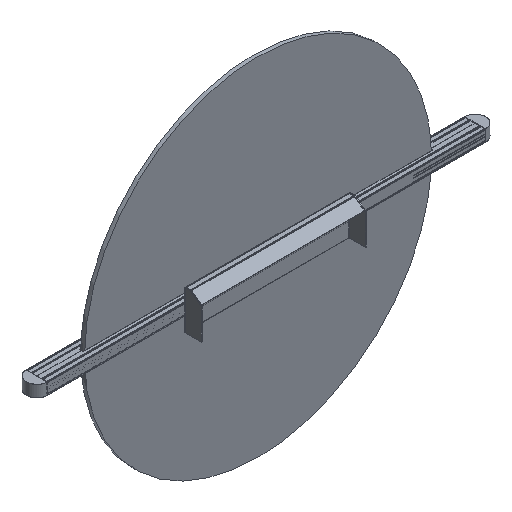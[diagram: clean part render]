
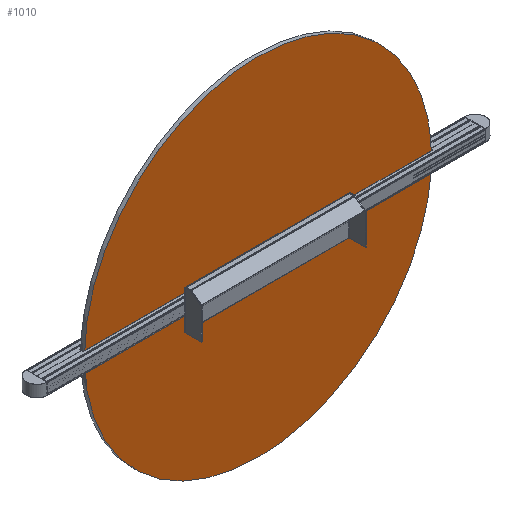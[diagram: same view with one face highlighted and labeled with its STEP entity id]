
A CAD part, isometric view. The second image highlights one B-rep face of the part: STEP entity #1010.
In plain terms, the highlighted planar face has unit normal (0, -1, 0).
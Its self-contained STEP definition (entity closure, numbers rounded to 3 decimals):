
#1010=ADVANCED_FACE('',(#1486),#7948,.T.);
#1486=FACE_OUTER_BOUND('',#1962,.T.);
#1962=EDGE_LOOP('',(#2463,#2464));
#2463=ORIENTED_EDGE('',*,*,#5178,.F.);
#2464=ORIENTED_EDGE('',*,*,#5182,.T.);
#5178=EDGE_CURVE('',#7033,#7034,#6554,.T.);
#5182=EDGE_CURVE('',#7033,#7034,#6558,.T.);
#6554=(
BOUNDED_CURVE()
B_SPLINE_CURVE(2,(#9598,#9599,#9600,#9601,#9602),.UNSPECIFIED.,.F.,.F.)
B_SPLINE_CURVE_WITH_KNOTS((3,2,3),(0.,800.,1600.),.UNSPECIFIED.)
CURVE()
GEOMETRIC_REPRESENTATION_ITEM()
RATIONAL_B_SPLINE_CURVE((1.,0.707,1.,0.707,1.))
REPRESENTATION_ITEM('')
);
#6558=(
BOUNDED_CURVE()
B_SPLINE_CURVE(2,(#9615,#9616,#9617,#9618,#9619),.UNSPECIFIED.,.F.,.F.)
B_SPLINE_CURVE_WITH_KNOTS((3,2,3),(-1600.,-800.,0.),.UNSPECIFIED.)
CURVE()
GEOMETRIC_REPRESENTATION_ITEM()
RATIONAL_B_SPLINE_CURVE((1.,0.707,1.,0.707,1.))
REPRESENTATION_ITEM('')
);
#7033=VERTEX_POINT('',#9593);
#7034=VERTEX_POINT('',#9594);
#7948=PLANE('',#8662);
#8662=AXIS2_PLACEMENT_3D('',#9590,#9121,$);
#9121=DIRECTION('',(0.,-1.,0.));
#9590=CARTESIAN_POINT('',(-480.012,-3.703,480.012));
#9593=CARTESIAN_POINT('',(-400.,-3.703,0.));
#9594=CARTESIAN_POINT('',(400.,-3.703,0.));
#9598=CARTESIAN_POINT('',(-400.,-3.703,0.));
#9599=CARTESIAN_POINT('',(-400.,-3.703,400.));
#9600=CARTESIAN_POINT('',(0.,-3.703,400.));
#9601=CARTESIAN_POINT('',(400.,-3.703,400.));
#9602=CARTESIAN_POINT('',(400.,-3.703,0.));
#9615=CARTESIAN_POINT('',(-400.,-3.703,0.));
#9616=CARTESIAN_POINT('',(-400.,-3.703,-400.));
#9617=CARTESIAN_POINT('',(0.,-3.703,-400.));
#9618=CARTESIAN_POINT('',(400.,-3.703,-400.));
#9619=CARTESIAN_POINT('',(400.,-3.703,0.));
